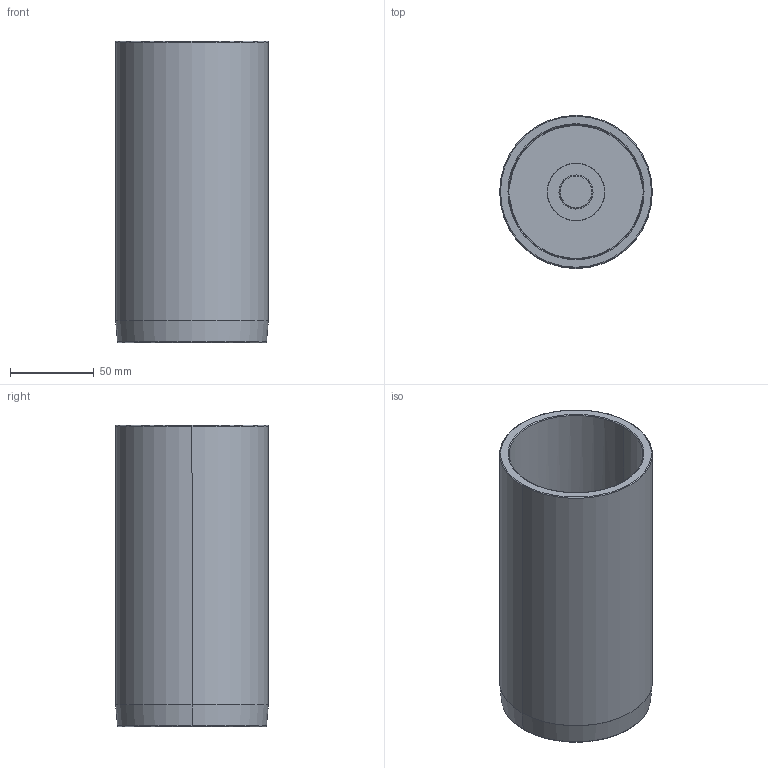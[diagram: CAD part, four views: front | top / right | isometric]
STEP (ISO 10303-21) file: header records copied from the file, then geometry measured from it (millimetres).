
FILE_DESCRIPTION((''),'2;1');
FILE_NAME('C12_080_180.stp','2009-01-29T09:37:01',(''),(''),'Mechanical Desktop 2009','Mechanical Desktop 2009',', , ');
FILE_SCHEMA(('CONFIG_CONTROL_DESIGN'));
Length unit declared in the file: millimetre
Products named in the file (2): Product; blmdl1
Assembly tree (1 placements, depth 2):
  Product
    blmdl1
Bounding box: 91.25 x 91.25 x 180 mm (x, y, z)
Volume: 293156.5 mm3; surface area: 121218.7 mm2
Topology: 5 solids, 5 shells, 79 faces, 200 edges, 134 vertices
Faces by surface type: cylinder 34, plane 29, torus 10, cone 6
Entity records: 2585 total; most frequent: DIRECTION 480, CARTESIAN_POINT 435, ORIENTED_EDGE 400, AXIS2_PLACEMENT_3D 203, EDGE_CURVE 200, VERTEX_POINT 134, CIRCLE 122, EDGE_LOOP 92
